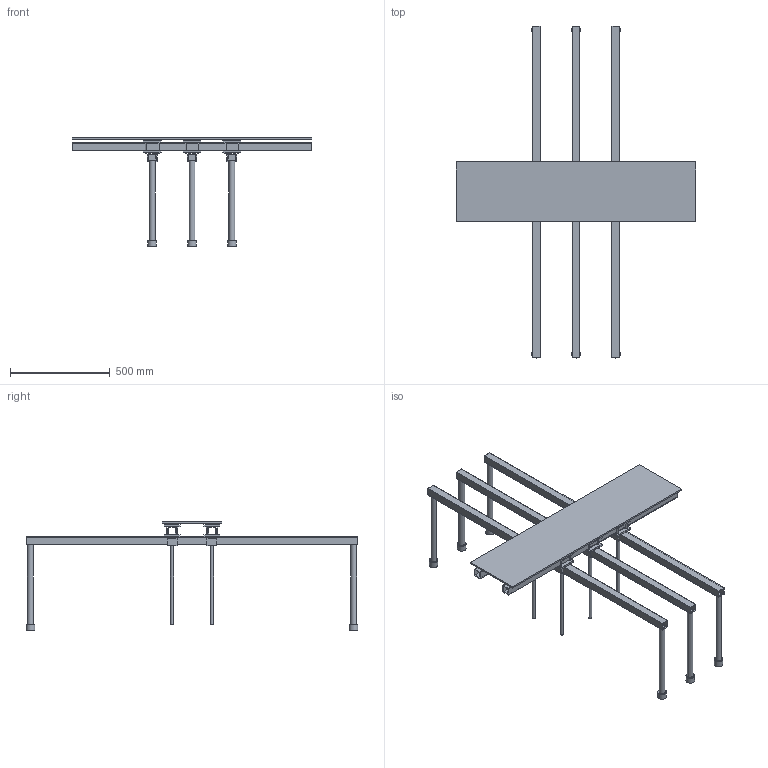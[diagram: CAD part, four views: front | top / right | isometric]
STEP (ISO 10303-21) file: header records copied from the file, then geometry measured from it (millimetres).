
FILE_DESCRIPTION(('FreeCAD Model'),'2;1');
FILE_NAME('Open CASCADE Shape Model','2026-10-29T11:57:34',('FreeCAD'),( 'FreeCAD'),'Open CASCADE STEP processor 7.8','FreeCAD','Unknown');
FILE_SCHEMA(('AUTOMOTIVE_DESIGN { 1 0 10303 214 1 1 1 1 }'));
Length unit declared in the file: millimetre
Products named in the file (1): Open CASCADE STEP translator 7.8 1
Bounding box: 1200 x 1664 x 546 mm (x, y, z)
Volume: 8739434.6 mm3; surface area: 4173452.9 mm2
Topology: 114 solids, 114 shells, 620 faces, 1176 edges, 784 vertices
Faces by surface type: plane 416, cylinder 204
Full cylindrical faces by diameter (mm): 6 x24, 6.6 x120, 10 x30, 16 x6, 24 x12, 30 x6, 44 x6
Entity records: 15960 total; most frequent: DIRECTION 2826, CARTESIAN_POINT 2581, ORIENTED_EDGE 2352, EDGE_CURVE 1176, AXIS2_PLACEMENT_3D 1029, FACE_BOUND 894, EDGE_LOOP 894, VERTEX_POINT 784
